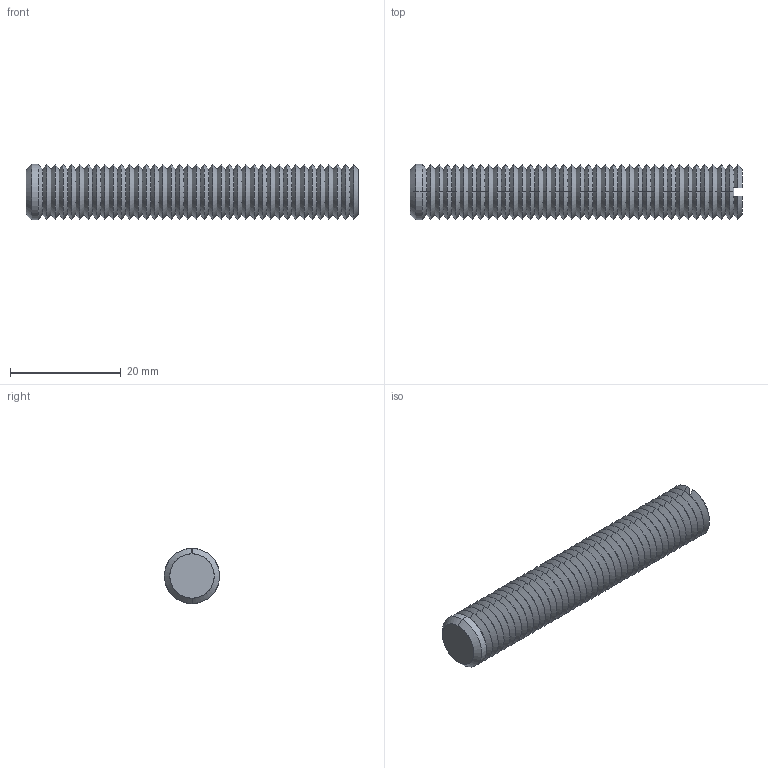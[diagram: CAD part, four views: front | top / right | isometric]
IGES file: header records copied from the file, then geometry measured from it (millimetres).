
Start section: SolidWorks IGES file using analytic representation for surfaces
Global section: file name: C:\Documents and Settings\IANO\Desktop\Temp File\Process pending\EXISTING\34300_v2\34300_v2_20170622_IGES\34300.W0107.igs; native system: SolidWorks 2009; preprocessor: SolidWorks 2009; author: IANO; date: 170622.094056; units: millimetre
Bounding box: 60 x 10 x 10 mm (x, y, z)
Surface area: 2831.9 mm2 (no closed solid volume)
Topology: 0 solids, 0 shells, 164 faces, 720 edges, 720 vertices
Faces by surface type: revolution 158, bspline 6
